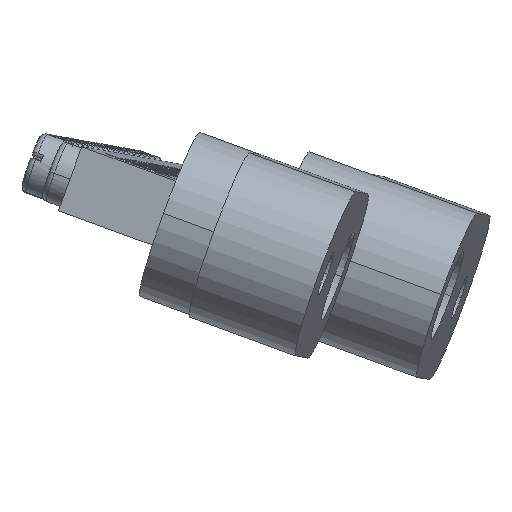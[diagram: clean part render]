
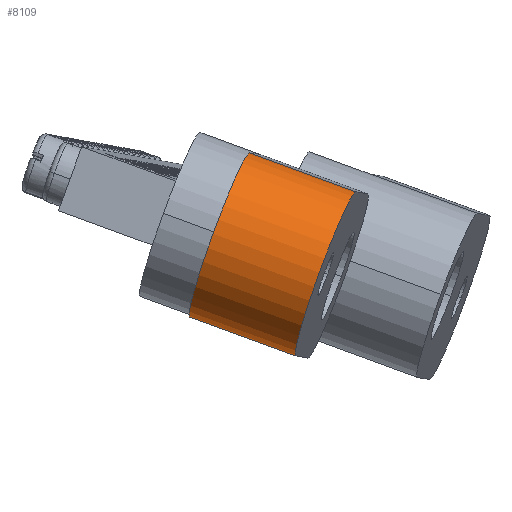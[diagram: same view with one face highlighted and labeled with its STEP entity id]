
A CAD part, left-side view. The second image highlights one B-rep face of the part: STEP entity #8109.
In plain terms, the highlighted cylindrical face has radius 7.7 mm (diameter 15.4 mm), a partial arc.
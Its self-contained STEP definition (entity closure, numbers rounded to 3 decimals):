
#111 = CIRCLE ( 'NONE', #4357, 7.7 ) ;
#139 = CARTESIAN_POINT ( 'NONE',  ( 14., -7.7, 0. ) ) ;
#629 = CARTESIAN_POINT ( 'NONE',  ( 14., 7.7, 10. ) ) ;
#728 = VERTEX_POINT ( 'NONE', #2420 ) ;
#1786 = CARTESIAN_POINT ( 'NONE',  ( 14., 0., 10. ) ) ;
#2235 = CYLINDRICAL_SURFACE ( 'NONE', #11653, 7.7 ) ;
#2420 = CARTESIAN_POINT ( 'NONE',  ( 14., -7.7, 10. ) ) ;
#2518 = FACE_OUTER_BOUND ( 'NONE', #3691, .T. ) ;
#2959 = LINE ( 'NONE', #10639, #7562 ) ;
#3215 = CARTESIAN_POINT ( 'NONE',  ( 14., 7.7, 0. ) ) ;
#3294 = ORIENTED_EDGE ( 'NONE', *, *, #7796, .F. ) ;
#3360 = AXIS2_PLACEMENT_3D ( 'NONE', #4133, #10532, #5057 ) ;
#3379 = DIRECTION ( 'NONE',  ( 0., 0., 1. ) ) ;
#3691 = EDGE_LOOP ( 'NONE', ( #7021, #3294, #9729, #6605 ) ) ;
#3723 = DIRECTION ( 'NONE',  ( -1., 0., 0. ) ) ;
#3985 = VERTEX_POINT ( 'NONE', #629 ) ;
#4133 = CARTESIAN_POINT ( 'NONE',  ( 14., 0., 10. ) ) ;
#4357 = AXIS2_PLACEMENT_3D ( 'NONE', #8893, #3379, #9802 ) ;
#4644 = EDGE_CURVE ( 'NONE', #728, #10153, #6520, .T. ) ;
#4885 = EDGE_CURVE ( 'NONE', #728, #3985, #6661, .T. ) ;
#5057 = DIRECTION ( 'NONE',  ( 1., 0., 0. ) ) ;
#6520 = LINE ( 'NONE', #9689, #11378 ) ;
#6605 = ORIENTED_EDGE ( 'NONE', *, *, #4644, .T. ) ;
#6661 = CIRCLE ( 'NONE', #3360, 7.7 ) ;
#7021 = ORIENTED_EDGE ( 'NONE', *, *, #10682, .T. ) ;
#7562 = VECTOR ( 'NONE', #8841, 1000. ) ;
#7796 = EDGE_CURVE ( 'NONE', #3985, #8446, #2959, .T. ) ;
#8109 = ADVANCED_FACE ( 'NONE', ( #2518 ), #2235, .T. ) ;
#8446 = VERTEX_POINT ( 'NONE', #3215 ) ;
#8841 = DIRECTION ( 'NONE',  ( 0., 0., -1. ) ) ;
#8893 = CARTESIAN_POINT ( 'NONE',  ( 14., 0., 0. ) ) ;
#9658 = DIRECTION ( 'NONE',  ( 0., 0., -1. ) ) ;
#9689 = CARTESIAN_POINT ( 'NONE',  ( 14., -7.7, 10. ) ) ;
#9729 = ORIENTED_EDGE ( 'NONE', *, *, #4885, .F. ) ;
#9802 = DIRECTION ( 'NONE',  ( 1., 0., 0. ) ) ;
#10153 = VERTEX_POINT ( 'NONE', #139 ) ;
#10532 = DIRECTION ( 'NONE',  ( 0., 0., 1. ) ) ;
#10639 = CARTESIAN_POINT ( 'NONE',  ( 14., 7.7, 10. ) ) ;
#10682 = EDGE_CURVE ( 'NONE', #10153, #8446, #111, .T. ) ;
#11066 = DIRECTION ( 'NONE',  ( 0., 0., -1. ) ) ;
#11378 = VECTOR ( 'NONE', #9658, 1000. ) ;
#11653 = AXIS2_PLACEMENT_3D ( 'NONE', #1786, #11066, #3723 ) ;
